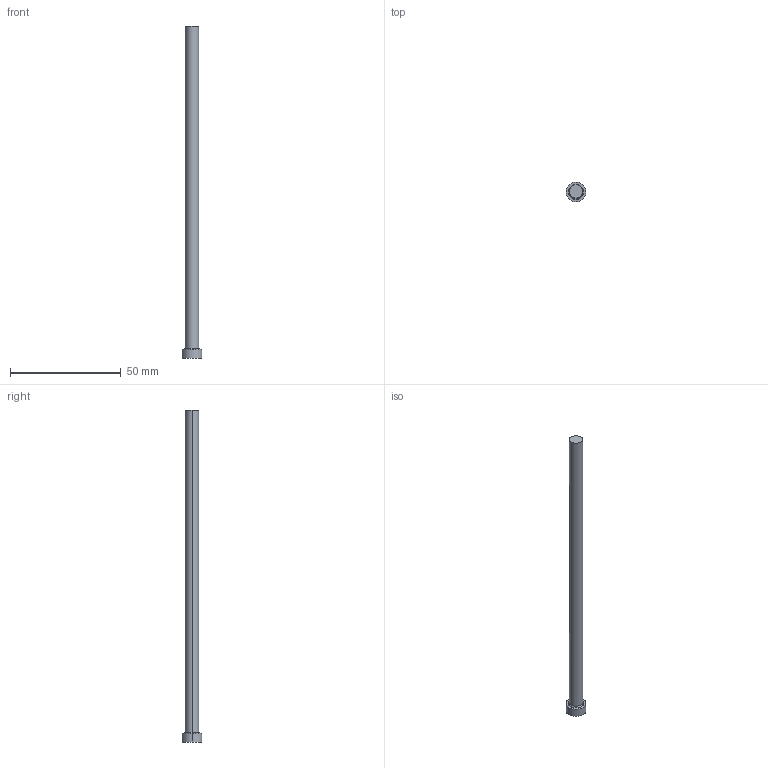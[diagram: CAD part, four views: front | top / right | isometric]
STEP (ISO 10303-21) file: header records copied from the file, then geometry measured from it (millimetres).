
FILE_DESCRIPTION (( 'STEP AP214' ), '1' );
FILE_NAME ('EPH6-150.step', '2024-04-11T21:13:28', ( '' ), ( '' ), 'SwSTEP 2.0', 'SolidWorks 2017', '' );
FILE_SCHEMA (( 'AUTOMOTIVE_DESIGN' ));
Length unit declared in the file: millimetre
Products named in the file (1): EPH6-150
Bounding box: 9 x 9 x 150 mm (x, y, z)
Volume: 4383.6 mm3; surface area: 2988.4 mm2
Topology: 1 solids, 1 shells, 9 faces, 16 edges, 10 vertices
Faces by surface type: cylinder 4, plane 3, torus 2
Entity records: 260 total; most frequent: DIRECTION 48, CARTESIAN_POINT 36, ORIENTED_EDGE 32, AXIS2_PLACEMENT_3D 22, EDGE_CURVE 16, CIRCLE 12, VERTEX_POINT 10, EDGE_LOOP 10
